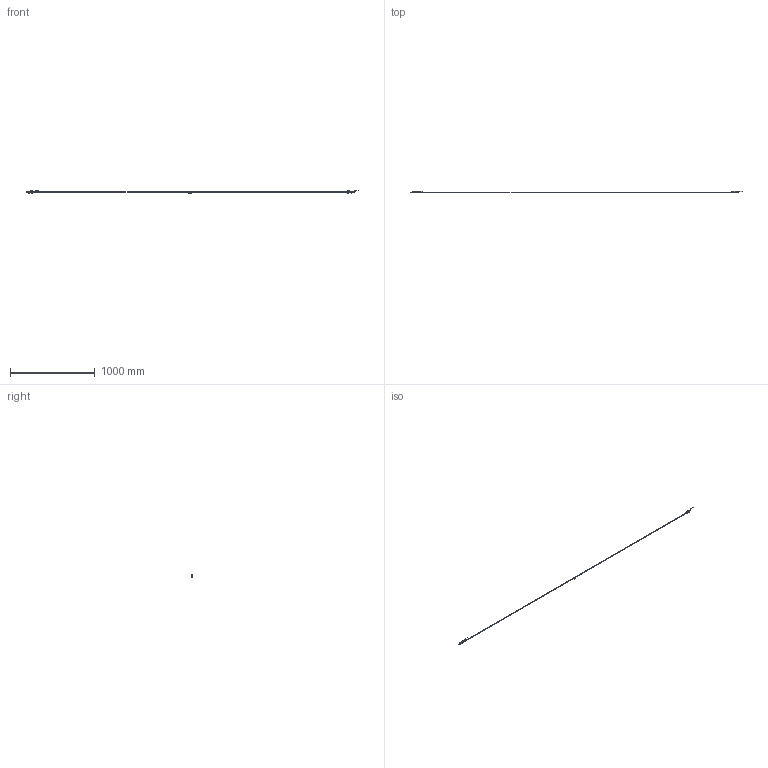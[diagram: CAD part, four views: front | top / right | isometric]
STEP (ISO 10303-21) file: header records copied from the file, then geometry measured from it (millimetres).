
FILE_DESCRIPTION(('Creo Elements/Direct Modeling STEP Export'),'2;1');
FILE_NAME('ITA-3770.stp','2025-01-28T16:12:16',(''),(''),'Creo Elements/Direct Modeling STEP processor for AP214 (Solid Model)','Creo Elements/Direct Modeling 20.4A 18-Oct-2021 (C) Parametric Technology GmbH','');
FILE_SCHEMA(('AUTOMOTIVE_DESIGN { 1 0 10303 214 1 1 1 1 }'));
Length unit declared in the file: millimetre
Products named in the file (9): MAGNET_L1; MAGNET_L2; TAPE_3770; END_TAPE_1; END_TAPE_2; READING_HEAD_1; MAGNET_I0; READING_HEAD_2; ITA-3770
Assembly tree (8 placements, depth 2):
  ITA-3770
    READING_HEAD_2
    MAGNET_I0
    READING_HEAD_1
    END_TAPE_2
    END_TAPE_1
    TAPE_3770
    MAGNET_L2
    MAGNET_L1
Bounding box: 3921.13 x 15.04 x 34.81 mm (x, y, z)
Volume: 45733.3 mm3; surface area: 94863.8 mm2
Topology: 8 solids, 8 shells, 1250 faces, 3413 edges, 2210 vertices
Faces by surface type: plane 908, cylinder 222, bspline 54, cone 32, torus 22, sphere 12
Entity records: 52347 total; most frequent: CARTESIAN_POINT 13619, ORIENTED_EDGE 6786, DIRECTION 5939, EDGE_CURVE 3393, VECTOR 2755, LINE 2755, VERTEX_POINT 2210, AXIS2_PLACEMENT_3D 1592
